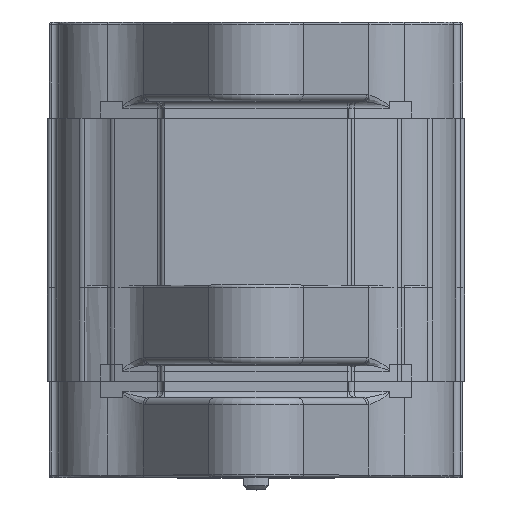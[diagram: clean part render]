
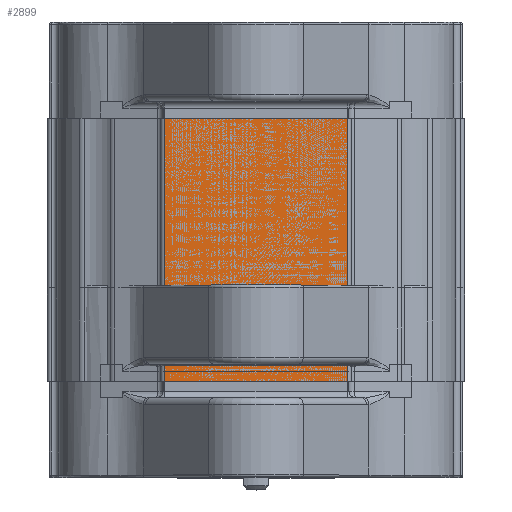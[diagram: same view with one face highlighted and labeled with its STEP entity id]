
A CAD part, top view. The second image highlights one B-rep face of the part: STEP entity #2899.
In plain terms, the highlighted planar face has unit normal (0, 0, 1) as drawn and (0, 0, -1) by its records, which use the part's own axes.
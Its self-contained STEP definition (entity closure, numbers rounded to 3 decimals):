
#2899 = ADVANCED_FACE( '', ( #6146 ), #6147, .T. );
#6146 = FACE_OUTER_BOUND( '', #11631, .T. );
#6147 = PLANE( '', #11632 );
#11631 = EDGE_LOOP( '', ( #20494, #20495, #20496, #20497 ) );
#11632 = AXIS2_PLACEMENT_3D( '', #20498, #20499, #20500 );
#20494 = ORIENTED_EDGE( '', *, *, #25619, .F. );
#20495 = ORIENTED_EDGE( '', *, *, #26014, .F. );
#20496 = ORIENTED_EDGE( '', *, *, #26125, .T. );
#20497 = ORIENTED_EDGE( '', *, *, #24006, .T. );
#20498 = CARTESIAN_POINT( '', ( -10.923, 31.5, -27. ) );
#20499 = DIRECTION( '', ( 0., 0., -1. ) );
#20500 = DIRECTION( '', ( -1., 0., 0. ) );
#24006 = EDGE_CURVE( '', #28941, #28938, #28942, .T. );
#25619 = EDGE_CURVE( '', #31197, #28938, #31199, .T. );
#26014 = EDGE_CURVE( '', #31669, #31197, #31671, .T. );
#26125 = EDGE_CURVE( '', #31669, #28941, #31776, .T. );
#28938 = VERTEX_POINT( '', #37040 );
#28941 = VERTEX_POINT( '', #37043 );
#28942 = LINE( '', #37044, #37045 );
#31197 = VERTEX_POINT( '', #41862 );
#31199 = LINE( '', #41864, #41865 );
#31669 = VERTEX_POINT( '', #42982 );
#31671 = LINE( '', #42984, #42985 );
#31776 = LINE( '', #43286, #43287 );
#37040 = CARTESIAN_POINT( '', ( 10.923, 0., -27. ) );
#37043 = CARTESIAN_POINT( '', ( 10.923, 31.5, -27. ) );
#37044 = CARTESIAN_POINT( '', ( 10.923, 31.5, -27. ) );
#37045 = VECTOR( '', #45849, 1000. );
#41862 = CARTESIAN_POINT( '', ( -10.923, 0., -27. ) );
#41864 = CARTESIAN_POINT( '', ( -10.923, 0., -27. ) );
#41865 = VECTOR( '', #47798, 1000. );
#42982 = CARTESIAN_POINT( '', ( -10.923, 31.5, -27. ) );
#42984 = CARTESIAN_POINT( '', ( -10.923, 31.5, -27. ) );
#42985 = VECTOR( '', #48228, 1000. );
#43286 = CARTESIAN_POINT( '', ( -10.923, 31.5, -27. ) );
#43287 = VECTOR( '', #48325, 1000. );
#45849 = DIRECTION( '', ( 0., -1., 0. ) );
#47798 = DIRECTION( '', ( 1., 0., 0. ) );
#48228 = DIRECTION( '', ( 0., -1., 0. ) );
#48325 = DIRECTION( '', ( 1., 0., 0. ) );
